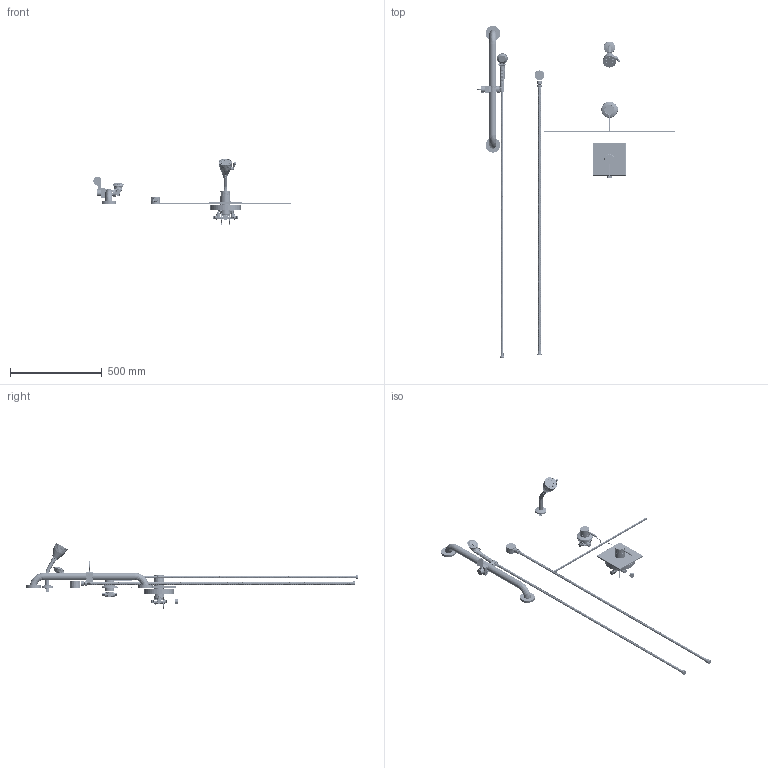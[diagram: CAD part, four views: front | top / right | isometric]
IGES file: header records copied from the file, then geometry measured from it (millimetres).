
Start section:  PTC IGES file: sh-tp2-11-013_REV093024.igs
Global section: file name: sh-tp2-11-013_REV093024.igs; native system: Creo Parametric by PTC Inc.; preprocessor: 2021184; author: rodjo; organization: Unknown; date: 20240930.115658; units: inch
Bounding box: 1075.46 x 1808.89 x 363.62 mm (x, y, z)
Surface area: 813802 mm2 (no closed solid volume)
Topology: 0 solids, 0 shells, 2230 faces, 21162 edges, 29847 vertices
Faces by surface type: bspline 1362, revolution 867, extrusion 1
